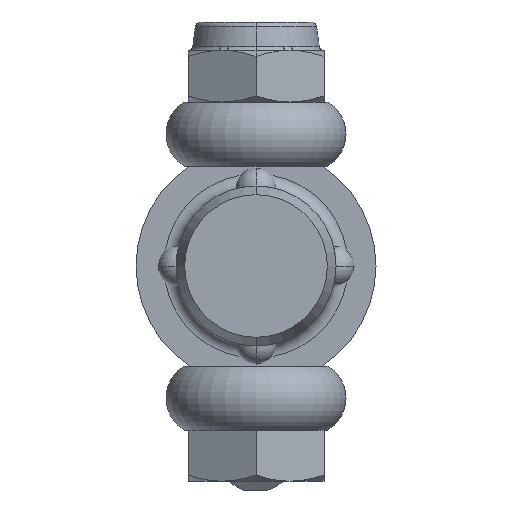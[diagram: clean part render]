
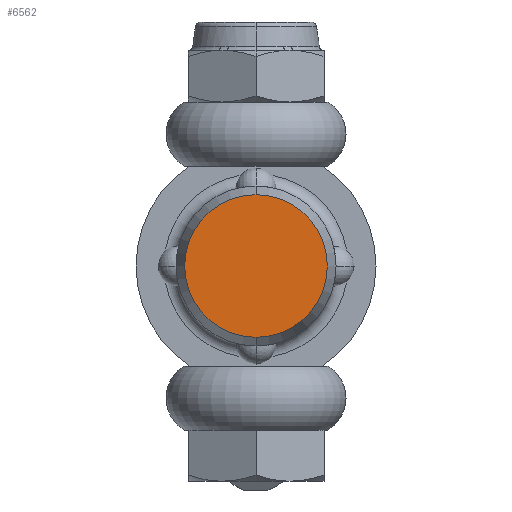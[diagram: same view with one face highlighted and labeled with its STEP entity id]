
A CAD part, front view. The second image highlights one B-rep face of the part: STEP entity #6562.
In plain terms, the highlighted planar face has unit normal (0, -1, 0) as drawn and (-1, 0, 0) by its records, which use the part's own axes.
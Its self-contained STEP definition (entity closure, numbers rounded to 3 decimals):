
#95 = ORIENTED_EDGE ( 'NONE', *, *, #1224, .F. ) ;
#145 = EDGE_LOOP ( 'NONE', ( #4513, #95 ) ) ;
#152 = FACE_OUTER_BOUND ( 'NONE', #145, .T. ) ;
#569 = CIRCLE ( 'NONE', #5220, 8.91 ) ;
#834 = EDGE_CURVE ( 'NONE', #881, #1603, #569, .T. ) ;
#881 = VERTEX_POINT ( 'NONE', #4879 ) ;
#1224 = EDGE_CURVE ( 'NONE', #1603, #881, #5649, .T. ) ;
#1509 = DIRECTION ( 'NONE',  ( 1., 0., 0. ) ) ;
#1603 = VERTEX_POINT ( 'NONE', #2531 ) ;
#1609 = DIRECTION ( 'NONE',  ( 0., 0., 1. ) ) ;
#2340 = DIRECTION ( 'NONE',  ( 1., 0., 0. ) ) ;
#2438 = CARTESIAN_POINT ( 'NONE',  ( -94.7, 0., 0. ) ) ;
#2442 = AXIS2_PLACEMENT_3D ( 'NONE', #5098, #3697, #1609 ) ;
#2531 = CARTESIAN_POINT ( 'NONE',  ( -94.7, 0., 8.91 ) ) ;
#2809 = AXIS2_PLACEMENT_3D ( 'NONE', #2438, #1509, #4456 ) ;
#3697 = DIRECTION ( 'NONE',  ( -1., 0., 0. ) ) ;
#4258 = PLANE ( 'NONE',  #2442 ) ;
#4456 = DIRECTION ( 'NONE',  ( 0., 0., -1. ) ) ;
#4513 = ORIENTED_EDGE ( 'NONE', *, *, #834, .F. ) ;
#4879 = CARTESIAN_POINT ( 'NONE',  ( -94.7, 0., -8.91 ) ) ;
#5098 = CARTESIAN_POINT ( 'NONE',  ( -94.7, 0., 0. ) ) ;
#5220 = AXIS2_PLACEMENT_3D ( 'NONE', #5379, #2340, #5939 ) ;
#5379 = CARTESIAN_POINT ( 'NONE',  ( -94.7, 0., 0. ) ) ;
#5649 = CIRCLE ( 'NONE', #2809, 8.91 ) ;
#5939 = DIRECTION ( 'NONE',  ( 0., 0., -1. ) ) ;
#6562 = ADVANCED_FACE ( 'PLANAR_4', ( #152 ), #4258, .T. ) ;
